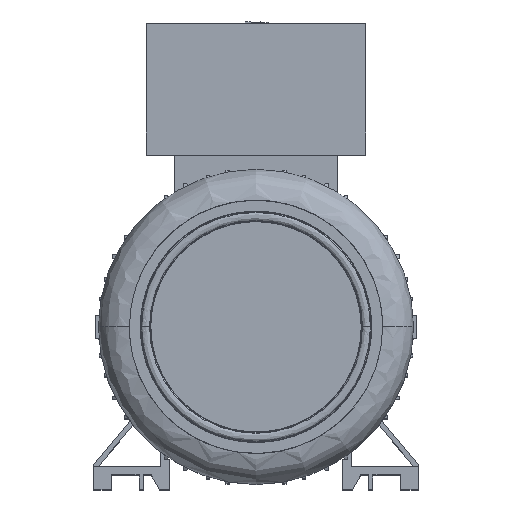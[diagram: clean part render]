
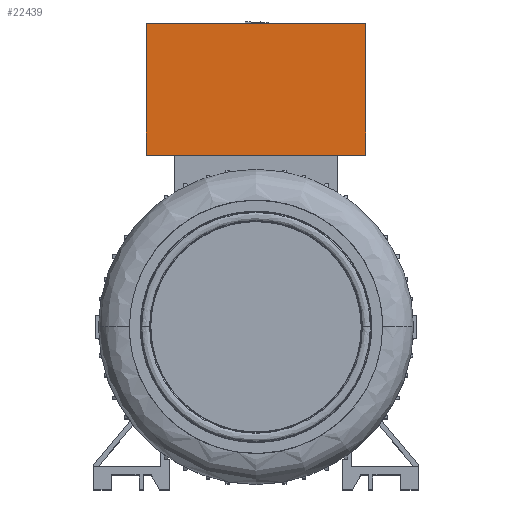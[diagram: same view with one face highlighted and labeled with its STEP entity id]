
A CAD part, top view. The second image highlights one B-rep face of the part: STEP entity #22439.
In plain terms, the highlighted planar face has unit normal (0, 0, 1).
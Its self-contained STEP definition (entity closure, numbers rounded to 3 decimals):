
#911 = DIRECTION ( 'NONE',  ( 1., 0., 0. ) ) ;
#1072 = ORIENTED_EDGE ( 'NONE', *, *, #21155, .F. ) ;
#1927 = EDGE_LOOP ( 'NONE', ( #22834, #16775, #1072, #20667 ) ) ;
#3520 = CARTESIAN_POINT ( 'NONE',  ( 67.5, 187., 41.5 ) ) ;
#3594 = CARTESIAN_POINT ( 'NONE',  ( 67.5, 106., 41.5 ) ) ;
#4229 = DIRECTION ( 'NONE',  ( 0., -1., 0. ) ) ;
#4538 = DIRECTION ( 'NONE',  ( 0., 1., 0. ) ) ;
#4616 = PLANE ( 'NONE',  #16368 ) ;
#6403 = CARTESIAN_POINT ( 'NONE',  ( 0., 106., 41.5 ) ) ;
#6438 = DIRECTION ( 'NONE',  ( 0., 0., 1. ) ) ;
#6450 = CARTESIAN_POINT ( 'NONE',  ( -67.5, -84.919, 41.5 ) ) ;
#6806 = CARTESIAN_POINT ( 'NONE',  ( -67.5, 187., 41.5 ) ) ;
#6824 = LINE ( 'NONE', #6403, #10321 ) ;
#8200 = CARTESIAN_POINT ( 'NONE',  ( -67.5, 106., 41.5 ) ) ;
#8307 = DIRECTION ( 'NONE',  ( 1., 0., 0. ) ) ;
#9936 = EDGE_CURVE ( 'NONE', #13235, #13463, #6824, .T. ) ;
#10321 = VECTOR ( 'NONE', #911, 1000. ) ;
#10676 = VECTOR ( 'NONE', #4229, 1000. ) ;
#11162 = FACE_OUTER_BOUND ( 'NONE', #1927, .T. ) ;
#11463 = VECTOR ( 'NONE', #12490, 1000. ) ;
#12490 = DIRECTION ( 'NONE',  ( 1., 0., 0. ) ) ;
#13235 = VERTEX_POINT ( 'NONE', #8200 ) ;
#13463 = VERTEX_POINT ( 'NONE', #3594 ) ;
#15931 = CARTESIAN_POINT ( 'NONE',  ( -67.5, -84.919, 41.5 ) ) ;
#16368 = AXIS2_PLACEMENT_3D ( 'NONE', #15931, #6438, #8307 ) ;
#16775 = ORIENTED_EDGE ( 'NONE', *, *, #9936, .T. ) ;
#17405 = VECTOR ( 'NONE', #4538, 1000. ) ;
#17604 = EDGE_CURVE ( 'NONE', #21934, #17735, #21320, .T. ) ;
#17669 = CARTESIAN_POINT ( 'NONE',  ( -67.5, 187., 41.5 ) ) ;
#17735 = VERTEX_POINT ( 'NONE', #3520 ) ;
#18177 = LINE ( 'NONE', #20487, #10676 ) ;
#18560 = EDGE_CURVE ( 'NONE', #13235, #21934, #19418, .T. ) ;
#19418 = LINE ( 'NONE', #6450, #17405 ) ;
#20487 = CARTESIAN_POINT ( 'NONE',  ( 67.5, -84.919, 41.5 ) ) ;
#20667 = ORIENTED_EDGE ( 'NONE', *, *, #17604, .F. ) ;
#21155 = EDGE_CURVE ( 'NONE', #17735, #13463, #18177, .T. ) ;
#21320 = LINE ( 'NONE', #6806, #11463 ) ;
#21934 = VERTEX_POINT ( 'NONE', #17669 ) ;
#22439 = ADVANCED_FACE ( 'NONE', ( #11162 ), #4616, .T. ) ;
#22834 = ORIENTED_EDGE ( 'NONE', *, *, #18560, .F. ) ;
